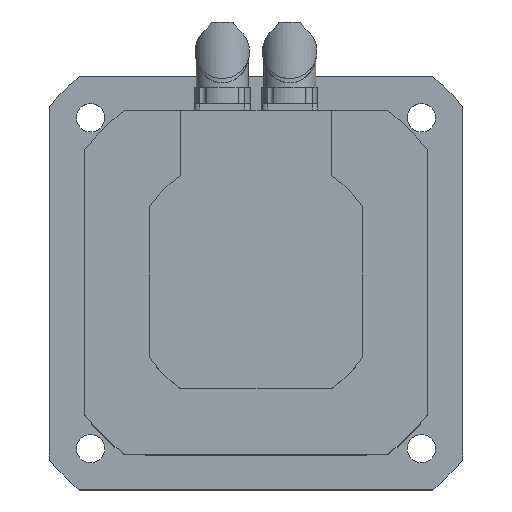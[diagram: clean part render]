
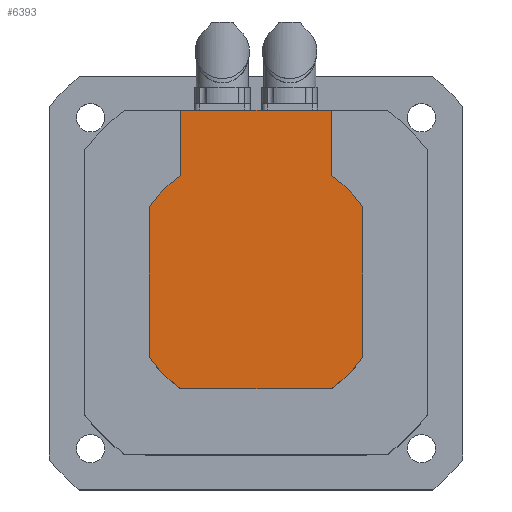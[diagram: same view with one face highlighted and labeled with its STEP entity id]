
A CAD part, top view. The second image highlights one B-rep face of the part: STEP entity #6393.
In plain terms, the highlighted planar face has unit normal (0, 0, 1).
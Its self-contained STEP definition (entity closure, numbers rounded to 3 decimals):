
#6141=CARTESIAN_POINT('',(-49.,-34.627,48.0));
#6142=VERTEX_POINT('',#6141);
#6149=CARTESIAN_POINT('',(-49.,34.627,48.0));
#6150=VERTEX_POINT('',#6149);
#6151=CARTESIAN_POINT('',(-49.,34.627,48.0));
#6152=DIRECTION('',(0.0,-1.0,0.0));
#6153=VECTOR('',#6152,69.253);
#6154=LINE('',#6151,#6153);
#6155=EDGE_CURVE('',#6150,#6142,#6154,.T.);
#6174=CARTESIAN_POINT('',(49.0,34.627,48.0));
#6175=VERTEX_POINT('',#6174);
#6182=CARTESIAN_POINT('',(49.0,-34.627,48.0));
#6183=VERTEX_POINT('',#6182);
#6184=CARTESIAN_POINT('',(49.0,-34.627,48.0));
#6185=DIRECTION('',(0.0,1.0,0.0));
#6186=VECTOR('',#6185,69.253);
#6187=LINE('',#6184,#6186);
#6188=EDGE_CURVE('',#6183,#6175,#6187,.T.);
#6211=CARTESIAN_POINT('',(34.627,-49.,48.0));
#6212=VERTEX_POINT('',#6211);
#6219=CARTESIAN_POINT('',(-34.627,-49.,48.0));
#6220=VERTEX_POINT('',#6219);
#6221=CARTESIAN_POINT('',(-34.627,-49.,48.0));
#6222=DIRECTION('',(1.0,0.0,0.0));
#6223=VECTOR('',#6222,69.253);
#6224=LINE('',#6221,#6223);
#6225=EDGE_CURVE('',#6220,#6212,#6224,.T.);
#6243=CARTESIAN_POINT('',(0.0,0.0,48.));
#6244=DIRECTION('',(0.0,0.0,-1.0));
#6245=DIRECTION('',(-1.0,0.0,0.0));
#6246=AXIS2_PLACEMENT_3D('',#6243,#6244,#6245);
#6247=CIRCLE('',#6246,60.0);
#6248=EDGE_CURVE('',#6183,#6212,#6247,.T.);
#6262=CARTESIAN_POINT('',(34.627,49.0,48.0));
#6263=VERTEX_POINT('',#6262);
#6270=CARTESIAN_POINT('',(0.0,0.0,48.));
#6271=DIRECTION('',(0.0,0.0,-1.0));
#6272=DIRECTION('',(-1.0,0.0,0.0));
#6273=AXIS2_PLACEMENT_3D('',#6270,#6271,#6272);
#6274=CIRCLE('',#6273,60.0);
#6275=EDGE_CURVE('',#6263,#6175,#6274,.T.);
#6286=CARTESIAN_POINT('',(-34.627,49.0,48.0));
#6287=VERTEX_POINT('',#6286);
#6288=CARTESIAN_POINT('',(0.0,0.0,48.));
#6289=DIRECTION('',(0.0,0.0,-1.0));
#6290=DIRECTION('',(-1.0,0.0,0.0));
#6291=AXIS2_PLACEMENT_3D('',#6288,#6289,#6290);
#6292=CIRCLE('',#6291,60.0);
#6293=EDGE_CURVE('',#6150,#6287,#6292,.T.);
#6313=CARTESIAN_POINT('',(0.0,0.0,48.));
#6314=DIRECTION('',(0.0,0.0,-1.0));
#6315=DIRECTION('',(-1.0,0.0,0.0));
#6316=AXIS2_PLACEMENT_3D('',#6313,#6314,#6315);
#6317=CIRCLE('',#6316,60.0);
#6318=EDGE_CURVE('',#6220,#6142,#6317,.T.);
#6330=CARTESIAN_POINT('',(-34.627,79.0,48.0));
#6331=VERTEX_POINT('',#6330);
#6332=CARTESIAN_POINT('',(-34.627,49.0,48.0));
#6333=DIRECTION('',(0.0,1.0,0.0));
#6334=VECTOR('',#6333,30.0);
#6335=LINE('',#6332,#6334);
#6336=EDGE_CURVE('',#6287,#6331,#6335,.T.);
#6352=CARTESIAN_POINT('',(34.627,79.0,48.0));
#6353=VERTEX_POINT('',#6352);
#6360=CARTESIAN_POINT('',(34.627,49.0,48.0));
#6361=DIRECTION('',(0.0,1.0,0.0));
#6362=VECTOR('',#6361,30.0);
#6363=LINE('',#6360,#6362);
#6364=EDGE_CURVE('',#6263,#6353,#6363,.T.);
#6371=CARTESIAN_POINT('',(49.,-49.,48.));
#6372=DIRECTION('',(0.0,0.0,-1.0));
#6373=DIRECTION('',(-1.0,0.0,0.0));
#6374=AXIS2_PLACEMENT_3D('',#6371,#6372,#6373);
#6375=PLANE('',#6374);
#6376=ORIENTED_EDGE('',*,*,#6188,.T.);
#6377=ORIENTED_EDGE('',*,*,#6275,.F.);
#6378=ORIENTED_EDGE('',*,*,#6364,.T.);
#6379=CARTESIAN_POINT('',(-34.627,79.0,48.0));
#6380=DIRECTION('',(1.0,0.0,0.0));
#6381=VECTOR('',#6380,69.253);
#6382=LINE('',#6379,#6381);
#6383=EDGE_CURVE('',#6331,#6353,#6382,.T.);
#6384=ORIENTED_EDGE('',*,*,#6383,.F.);
#6385=ORIENTED_EDGE('',*,*,#6336,.F.);
#6386=ORIENTED_EDGE('',*,*,#6293,.F.);
#6387=ORIENTED_EDGE('',*,*,#6155,.T.);
#6388=ORIENTED_EDGE('',*,*,#6318,.F.);
#6389=ORIENTED_EDGE('',*,*,#6225,.T.);
#6390=ORIENTED_EDGE('',*,*,#6248,.F.);
#6391=EDGE_LOOP('',(#6376,#6377,#6378,#6384,#6385,#6386,#6387,#6388,#6389,#6390));
#6392=FACE_OUTER_BOUND('',#6391,.T.);
#6393=ADVANCED_FACE('',(#6392),#6375,.F.);
